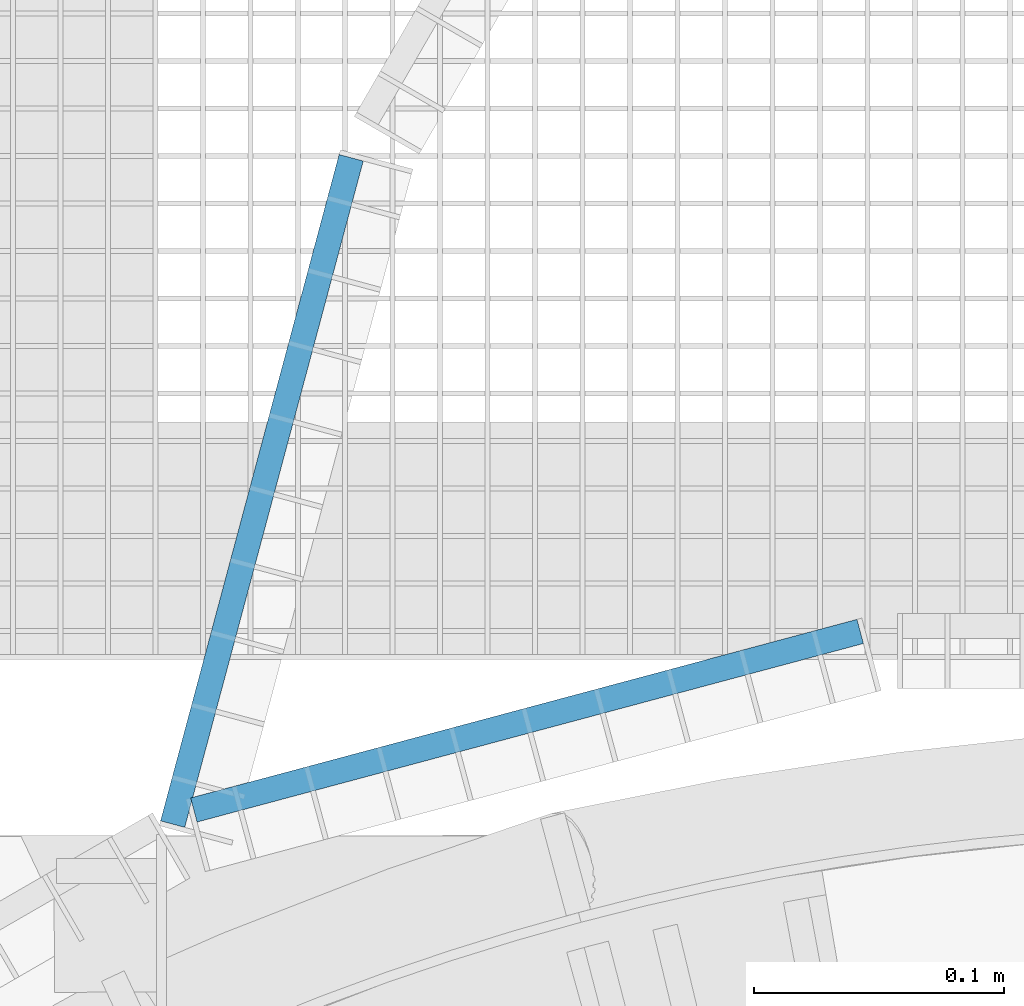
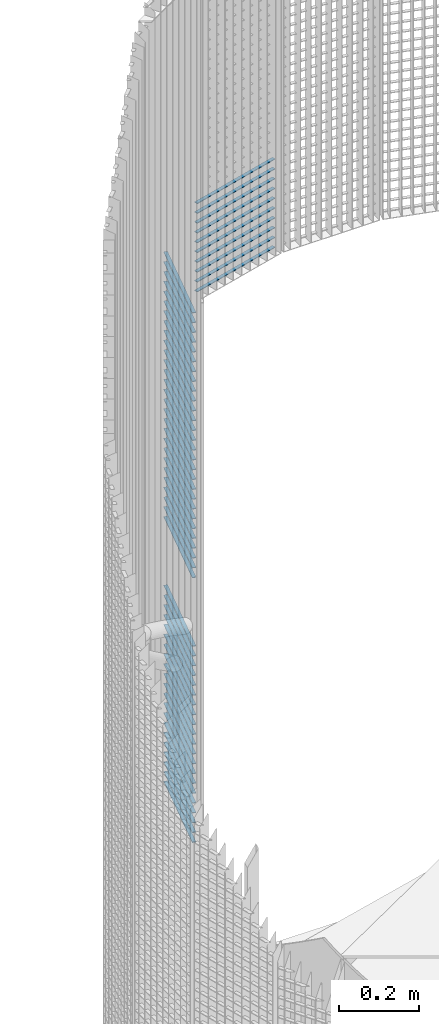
# One storey, part 327 of 1183: 59 beams, 1 element without a shape of its own.
"""IFC2X3 building model written with IfcOpenShell, lengths in millimetres."""

from ifc_helpers import new_model, si_unit, frame, origin_with_axes, origin_2d_with_axis, place, context, subcontext, project, spatial, rectangle, extrude, material, type_object, element, aggregate, save


model = new_model("IFC2X3")

# Units and contexts
model_context = context("Model", 3, precision=1e-05, world=origin_with_axes())
body_context = subcontext(model_context, "Body", "Model", "MODEL_VIEW")
ifc_project = project(units=[si_unit("LENGTHUNIT", "METRE", prefix="MILLI"), si_unit("AREAUNIT", "SQUARE_METRE"), si_unit("VOLUMEUNIT", "CUBIC_METRE"), si_unit("MASSUNIT", "GRAM", prefix="KILO"), si_unit("TIMEUNIT", "SECOND"), si_unit("PLANEANGLEUNIT", "RADIAN"), si_unit("SOLIDANGLEUNIT", "STERADIAN"), si_unit("THERMODYNAMICTEMPERATUREUNIT", "DEGREE_CELSIUS"), si_unit("LUMINOUSINTENSITYUNIT", "LUMEN")], contexts=[model_context])

# Site, building, storey
site_placement = place(None, origin_with_axes())
site = spatial("IfcSite", under=ifc_project, at=site_placement, Name="Undefined", CompositionType="ELEMENT")
building_placement = place(site_placement, origin_with_axes())
building = spatial("IfcBuilding", under=site, at=building_placement, Name="Undefined", CompositionType="ELEMENT")
storey_placement = place(building_placement, origin_with_axes())
storey = spatial("IfcBuildingStorey", under=building, at=storey_placement, Name="Undefined", CompositionType="ELEMENT", Elevation=0.0)

# Assembly, beams
assembly_placement = place(storey_placement, origin_with_axes())
assembly = element("IfcElementAssembly", 1, at=assembly_placement, inside=storey, Name="BORDURE", AssemblyPlace="NOTDEFINED", PredefinedType="NOTDEFINED")
ifc_material = material(Name="STEEL/S235JR")
beam_type = type_object("IfcBeamType", Name="PL2*10", PredefinedType="NOTDEFINED")
beam_1_placement = place(assembly_placement, frame((-154.895926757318, 1111.25508286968, 2280.0), z_axis=(-0.258819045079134, 0.965925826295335, 0.0), x_axis=(-0.965925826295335, -0.258819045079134, 0.0)))
beam_1 = element("IfcBeam", 2, at=beam_1_placement, type_object=beam_type, material=ifc_material, Name="ENTRETOISE", context=body_context, shape_type="SweptSolid", body=[
    extrude(rectangle(XDim=2.0, YDim=10.0, at=origin_2d_with_axis()), frame((275.999999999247, 9.09494701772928e-13, 1.53210777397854e-14), z_axis=(-1.0, 0.0, 0.0), x_axis=(0.0, -1.0, 0.0)), (0.0, 0.0, 1.0), 276.0),
])
beam_2_placement = place(assembly_placement, frame((-154.895926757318, 1111.25508286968, 2250.0), z_axis=(-0.258819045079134, 0.965925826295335, 0.0), x_axis=(-0.965925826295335, -0.258819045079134, 0.0)))
beam_2 = element("IfcBeam", 3, at=beam_2_placement, type_object=beam_type, material=ifc_material, Name="ENTRETOISE", context=body_context, shape_type="SweptSolid", body=[
    extrude(rectangle(XDim=2.0, YDim=10.0, at=origin_2d_with_axis()), frame((275.999999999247, 9.09494701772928e-13, 1.53210777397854e-14), z_axis=(-1.0, 0.0, 0.0), x_axis=(0.0, -1.0, 0.0)), (0.0, 0.0, 1.0), 276.0),
])
beam_3_placement = place(assembly_placement, frame((-154.895926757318, 1111.25508286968, 2220.0), z_axis=(-0.258819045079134, 0.965925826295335, 0.0), x_axis=(-0.965925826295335, -0.258819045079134, 0.0)))
beam_3 = element("IfcBeam", 4, at=beam_3_placement, type_object=beam_type, material=ifc_material, Name="ENTRETOISE", context=body_context, shape_type="SweptSolid", body=[
    extrude(rectangle(XDim=2.0, YDim=10.0, at=origin_2d_with_axis()), frame((275.999999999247, 9.09494701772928e-13, 1.53210777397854e-14), z_axis=(-1.0, 0.0, 0.0), x_axis=(0.0, -1.0, 0.0)), (0.0, 0.0, 1.0), 276.0),
])
beam_4_placement = place(assembly_placement, frame((-154.895926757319, 1111.25508286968, 2190.0), z_axis=(-0.258819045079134, 0.965925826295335, 0.0), x_axis=(-0.965925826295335, -0.258819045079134, 0.0)))
beam_4 = element("IfcBeam", 5, at=beam_4_placement, type_object=beam_type, material=ifc_material, Name="ENTRETOISE", context=body_context, shape_type="SweptSolid", body=[
    extrude(rectangle(XDim=2.0, YDim=10.0, at=origin_2d_with_axis()), frame((275.999999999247, 9.09494701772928e-13, 1.53210777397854e-14), z_axis=(-1.0, 0.0, 0.0), x_axis=(0.0, -1.0, 0.0)), (0.0, 0.0, 1.0), 276.0),
])
beam_5_placement = place(assembly_placement, frame((-154.895926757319, 1111.25508286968, 2160.0), z_axis=(-0.258819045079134, 0.965925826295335, 0.0), x_axis=(-0.965925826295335, -0.258819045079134, 0.0)))
beam_5 = element("IfcBeam", 6, at=beam_5_placement, type_object=beam_type, material=ifc_material, Name="ENTRETOISE", context=body_context, shape_type="SweptSolid", body=[
    extrude(rectangle(XDim=2.0, YDim=10.0, at=origin_2d_with_axis()), frame((275.999999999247, 9.09494701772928e-13, 1.53210777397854e-14), z_axis=(-1.0, 0.0, 0.0), x_axis=(0.0, -1.0, 0.0)), (0.0, 0.0, 1.0), 276.0),
])
beam_6_placement = place(assembly_placement, frame((-154.895926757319, 1111.25508286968, 2130.0), z_axis=(-0.258819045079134, 0.965925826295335, 0.0), x_axis=(-0.965925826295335, -0.258819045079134, 0.0)))
beam_6 = element("IfcBeam", 7, at=beam_6_placement, type_object=beam_type, material=ifc_material, Name="ENTRETOISE", context=body_context, shape_type="SweptSolid", body=[
    extrude(rectangle(XDim=2.0, YDim=10.0, at=origin_2d_with_axis()), frame((275.999999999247, 9.09494701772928e-13, 1.53210777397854e-14), z_axis=(-1.0, 0.0, 0.0), x_axis=(0.0, -1.0, 0.0)), (0.0, 0.0, 1.0), 276.0),
])
beam_7_placement = place(assembly_placement, frame((-154.895926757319, 1111.25508286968, 2100.0), z_axis=(-0.258819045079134, 0.965925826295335, 0.0), x_axis=(-0.965925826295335, -0.258819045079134, 0.0)))
beam_7 = element("IfcBeam", 8, at=beam_7_placement, type_object=beam_type, material=ifc_material, Name="ENTRETOISE", context=body_context, shape_type="SweptSolid", body=[
    extrude(rectangle(XDim=2.0, YDim=10.0, at=origin_2d_with_axis()), frame((275.999999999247, 9.09494701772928e-13, 1.53210777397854e-14), z_axis=(-1.0, 0.0, 0.0), x_axis=(0.0, -1.0, 0.0)), (0.0, 0.0, 1.0), 276.0),
])
beam_8_placement = place(assembly_placement, frame((-154.895926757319, 1111.25508286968, 2070.0), z_axis=(-0.258819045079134, 0.965925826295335, 0.0), x_axis=(-0.965925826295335, -0.258819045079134, 0.0)))
beam_8 = element("IfcBeam", 9, at=beam_8_placement, type_object=beam_type, material=ifc_material, Name="ENTRETOISE", context=body_context, shape_type="SweptSolid", body=[
    extrude(rectangle(XDim=2.0, YDim=10.0, at=origin_2d_with_axis()), frame((275.999999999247, 9.09494701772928e-13, 1.53210777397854e-14), z_axis=(-1.0, 0.0, 0.0), x_axis=(0.0, -1.0, 0.0)), (0.0, 0.0, 1.0), 276.0),
])
beam_9_placement = place(assembly_placement, frame((-154.895926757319, 1111.25508286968, 2040.0), z_axis=(-0.258819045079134, 0.965925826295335, 0.0), x_axis=(-0.965925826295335, -0.258819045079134, 0.0)))
beam_9 = element("IfcBeam", 10, at=beam_9_placement, type_object=beam_type, material=ifc_material, Name="ENTRETOISE", context=body_context, shape_type="SweptSolid", body=[
    extrude(rectangle(XDim=2.0, YDim=10.0, at=origin_2d_with_axis()), frame((275.999999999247, 9.09494701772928e-13, 1.53210777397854e-14), z_axis=(-1.0, 0.0, 0.0), x_axis=(0.0, -1.0, 0.0)), (0.0, 0.0, 1.0), 276.0),
])
beam_10_placement = place(assembly_placement, frame((-154.895926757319, 1111.25508286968, 2010.0), z_axis=(-0.258819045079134, 0.965925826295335, 0.0), x_axis=(-0.965925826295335, -0.258819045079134, 0.0)))
beam_10 = element("IfcBeam", 11, at=beam_10_placement, type_object=beam_type, material=ifc_material, Name="ENTRETOISE", context=body_context, shape_type="SweptSolid", body=[
    extrude(rectangle(XDim=2.0, YDim=10.0, at=origin_2d_with_axis()), frame((275.999999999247, 9.09494701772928e-13, 1.53210777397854e-14), z_axis=(-1.0, 0.0, 0.0), x_axis=(0.0, -1.0, 0.0)), (0.0, 0.0, 1.0), 276.0),
])
beam_11_placement = place(assembly_placement, frame((-358.548698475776, 1300.76186484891, 1950.0), z_axis=(-0.965925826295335, 0.258819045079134, 0.0), x_axis=(-0.258819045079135, -0.965925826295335, 0.0)))
beam_11 = element("IfcBeam", 12, at=beam_11_placement, type_object=beam_type, material=ifc_material, Name="ENTRETOISE", context=body_context, shape_type="SweptSolid", body=[
    extrude(rectangle(XDim=2.0, YDim=10.0, at=origin_2d_with_axis()), frame((275.999999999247, 9.09494701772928e-13, 1.53210777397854e-14), z_axis=(-1.0, 0.0, 0.0), x_axis=(0.0, -1.0, 0.0)), (0.0, 0.0, 1.0), 276.0),
])
beam_12_placement = place(assembly_placement, frame((-358.548698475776, 1300.76186484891, 1920.0), z_axis=(-0.965925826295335, 0.258819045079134, 0.0), x_axis=(-0.258819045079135, -0.965925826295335, 0.0)))
beam_12 = element("IfcBeam", 13, at=beam_12_placement, type_object=beam_type, material=ifc_material, Name="ENTRETOISE", context=body_context, shape_type="SweptSolid", body=[
    extrude(rectangle(XDim=2.0, YDim=10.0, at=origin_2d_with_axis()), frame((275.999999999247, 9.09494701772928e-13, 1.53210777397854e-14), z_axis=(-1.0, 0.0, 0.0), x_axis=(0.0, -1.0, 0.0)), (0.0, 0.0, 1.0), 276.0),
])
beam_13_placement = place(assembly_placement, frame((-358.548698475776, 1300.76186484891, 1890.0), z_axis=(-0.965925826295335, 0.258819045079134, 0.0), x_axis=(-0.258819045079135, -0.965925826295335, 0.0)))
beam_13 = element("IfcBeam", 14, at=beam_13_placement, type_object=beam_type, material=ifc_material, Name="ENTRETOISE", context=body_context, shape_type="SweptSolid", body=[
    extrude(rectangle(XDim=2.0, YDim=10.0, at=origin_2d_with_axis()), frame((275.999999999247, 9.09494701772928e-13, 1.53210777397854e-14), z_axis=(-1.0, 0.0, 0.0), x_axis=(0.0, -1.0, 0.0)), (0.0, 0.0, 1.0), 276.0),
])
beam_14_placement = place(assembly_placement, frame((-358.548698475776, 1300.76186484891, 1860.0), z_axis=(-0.965925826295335, 0.258819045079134, 0.0), x_axis=(-0.258819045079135, -0.965925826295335, 0.0)))
beam_14 = element("IfcBeam", 15, at=beam_14_placement, type_object=beam_type, material=ifc_material, Name="ENTRETOISE", context=body_context, shape_type="SweptSolid", body=[
    extrude(rectangle(XDim=2.0, YDim=10.0, at=origin_2d_with_axis()), frame((275.999999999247, 9.09494701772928e-13, 1.53210777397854e-14), z_axis=(-1.0, 0.0, 0.0), x_axis=(0.0, -1.0, 0.0)), (0.0, 0.0, 1.0), 276.0),
])
beam_15_placement = place(assembly_placement, frame((-358.548698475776, 1300.76186484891, 1830.0), z_axis=(-0.965925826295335, 0.258819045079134, 0.0), x_axis=(-0.258819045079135, -0.965925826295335, 0.0)))
beam_15 = element("IfcBeam", 16, at=beam_15_placement, type_object=beam_type, material=ifc_material, Name="ENTRETOISE", context=body_context, shape_type="SweptSolid", body=[
    extrude(rectangle(XDim=2.0, YDim=10.0, at=origin_2d_with_axis()), frame((275.999999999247, 9.09494701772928e-13, 1.53210777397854e-14), z_axis=(-1.0, 0.0, 0.0), x_axis=(0.0, -1.0, 0.0)), (0.0, 0.0, 1.0), 276.0),
])
beam_16_placement = place(assembly_placement, frame((-358.548698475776, 1300.76186484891, 1800.0), z_axis=(-0.965925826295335, 0.258819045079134, 0.0), x_axis=(-0.258819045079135, -0.965925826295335, 0.0)))
beam_16 = element("IfcBeam", 17, at=beam_16_placement, type_object=beam_type, material=ifc_material, Name="ENTRETOISE", context=body_context, shape_type="SweptSolid", body=[
    extrude(rectangle(XDim=2.0, YDim=10.0, at=origin_2d_with_axis()), frame((275.999999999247, 9.09494701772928e-13, 1.53210777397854e-14), z_axis=(-1.0, 0.0, 0.0), x_axis=(0.0, -1.0, 0.0)), (0.0, 0.0, 1.0), 276.0),
])
beam_17_placement = place(assembly_placement, frame((-358.548698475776, 1300.76186484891, 1770.0), z_axis=(-0.965925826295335, 0.258819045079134, 0.0), x_axis=(-0.258819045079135, -0.965925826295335, 0.0)))
beam_17 = element("IfcBeam", 18, at=beam_17_placement, type_object=beam_type, material=ifc_material, Name="ENTRETOISE", context=body_context, shape_type="SweptSolid", body=[
    extrude(rectangle(XDim=2.0, YDim=10.0, at=origin_2d_with_axis()), frame((275.999999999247, 9.09494701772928e-13, 1.53210777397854e-14), z_axis=(-1.0, 0.0, 0.0), x_axis=(0.0, -1.0, 0.0)), (0.0, 0.0, 1.0), 276.0),
])
beam_18_placement = place(assembly_placement, frame((-358.548698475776, 1300.76186484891, 1740.0), z_axis=(-0.965925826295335, 0.258819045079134, 0.0), x_axis=(-0.258819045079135, -0.965925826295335, 0.0)))
beam_18 = element("IfcBeam", 19, at=beam_18_placement, type_object=beam_type, material=ifc_material, Name="ENTRETOISE", context=body_context, shape_type="SweptSolid", body=[
    extrude(rectangle(XDim=2.0, YDim=10.0, at=origin_2d_with_axis()), frame((275.999999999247, 9.09494701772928e-13, 1.53210777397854e-14), z_axis=(-1.0, 0.0, 0.0), x_axis=(0.0, -1.0, 0.0)), (0.0, 0.0, 1.0), 276.0),
])
beam_19_placement = place(assembly_placement, frame((-358.548698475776, 1300.76186484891, 1710.0), z_axis=(-0.965925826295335, 0.258819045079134, 0.0), x_axis=(-0.258819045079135, -0.965925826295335, 0.0)))
beam_19 = element("IfcBeam", 20, at=beam_19_placement, type_object=beam_type, material=ifc_material, Name="ENTRETOISE", context=body_context, shape_type="SweptSolid", body=[
    extrude(rectangle(XDim=2.0, YDim=10.0, at=origin_2d_with_axis()), frame((275.999999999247, 9.09494701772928e-13, 1.53210777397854e-14), z_axis=(-1.0, 0.0, 0.0), x_axis=(0.0, -1.0, 0.0)), (0.0, 0.0, 1.0), 276.0),
])
beam_20_placement = place(assembly_placement, frame((-358.548698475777, 1300.76186484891, 1680.0), z_axis=(-0.965925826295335, 0.258819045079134, 0.0), x_axis=(-0.258819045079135, -0.965925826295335, 0.0)))
beam_20 = element("IfcBeam", 21, at=beam_20_placement, type_object=beam_type, material=ifc_material, Name="ENTRETOISE", context=body_context, shape_type="SweptSolid", body=[
    extrude(rectangle(XDim=2.0, YDim=10.0, at=origin_2d_with_axis()), frame((275.999999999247, 9.09494701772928e-13, 1.53210777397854e-14), z_axis=(-1.0, 0.0, 0.0), x_axis=(0.0, -1.0, 0.0)), (0.0, 0.0, 1.0), 276.0),
])
beam_21_placement = place(assembly_placement, frame((-358.548698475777, 1300.76186484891, 1650.0), z_axis=(-0.965925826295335, 0.258819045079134, 0.0), x_axis=(-0.258819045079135, -0.965925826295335, 0.0)))
beam_21 = element("IfcBeam", 22, at=beam_21_placement, type_object=beam_type, material=ifc_material, Name="ENTRETOISE", context=body_context, shape_type="SweptSolid", body=[
    extrude(rectangle(XDim=2.0, YDim=10.0, at=origin_2d_with_axis()), frame((275.999999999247, 9.09494701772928e-13, 1.53210777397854e-14), z_axis=(-1.0, 0.0, 0.0), x_axis=(0.0, -1.0, 0.0)), (0.0, 0.0, 1.0), 276.0),
])
beam_22_placement = place(assembly_placement, frame((-358.548698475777, 1300.76186484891, 1620.0), z_axis=(-0.965925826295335, 0.258819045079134, 0.0), x_axis=(-0.258819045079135, -0.965925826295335, 0.0)))
beam_22 = element("IfcBeam", 23, at=beam_22_placement, type_object=beam_type, material=ifc_material, Name="ENTRETOISE", context=body_context, shape_type="SweptSolid", body=[
    extrude(rectangle(XDim=2.0, YDim=10.0, at=origin_2d_with_axis()), frame((275.999999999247, 9.09494701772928e-13, 1.53210777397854e-14), z_axis=(-1.0, 0.0, 0.0), x_axis=(0.0, -1.0, 0.0)), (0.0, 0.0, 1.0), 276.0),
])
beam_23_placement = place(assembly_placement, frame((-358.548698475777, 1300.76186484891, 1590.0), z_axis=(-0.965925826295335, 0.258819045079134, 0.0), x_axis=(-0.258819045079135, -0.965925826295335, 0.0)))
beam_23 = element("IfcBeam", 24, at=beam_23_placement, type_object=beam_type, material=ifc_material, Name="ENTRETOISE", context=body_context, shape_type="SweptSolid", body=[
    extrude(rectangle(XDim=2.0, YDim=10.0, at=origin_2d_with_axis()), frame((275.999999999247, 9.09494701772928e-13, 1.53210777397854e-14), z_axis=(-1.0, 0.0, 0.0), x_axis=(0.0, -1.0, 0.0)), (0.0, 0.0, 1.0), 276.0),
])
beam_24_placement = place(assembly_placement, frame((-358.548698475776, 1300.76186484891, 1560.0), z_axis=(-0.965925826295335, 0.258819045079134, 0.0), x_axis=(-0.258819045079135, -0.965925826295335, 0.0)))
beam_24 = element("IfcBeam", 25, at=beam_24_placement, type_object=beam_type, material=ifc_material, Name="ENTRETOISE", context=body_context, shape_type="SweptSolid", body=[
    extrude(rectangle(XDim=2.0, YDim=10.0, at=origin_2d_with_axis()), frame((275.999999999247, 9.09494701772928e-13, 1.53210777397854e-14), z_axis=(-1.0, 0.0, 0.0), x_axis=(0.0, -1.0, 0.0)), (0.0, 0.0, 1.0), 276.0),
])
beam_25_placement = place(assembly_placement, frame((-358.548698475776, 1300.76186484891, 1530.0), z_axis=(-0.965925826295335, 0.258819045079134, 0.0), x_axis=(-0.258819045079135, -0.965925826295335, 0.0)))
beam_25 = element("IfcBeam", 26, at=beam_25_placement, type_object=beam_type, material=ifc_material, Name="ENTRETOISE", context=body_context, shape_type="SweptSolid", body=[
    extrude(rectangle(XDim=2.0, YDim=10.0, at=origin_2d_with_axis()), frame((275.999999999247, 9.09494701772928e-13, 1.53210777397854e-14), z_axis=(-1.0, 0.0, 0.0), x_axis=(0.0, -1.0, 0.0)), (0.0, 0.0, 1.0), 276.0),
])
beam_26_placement = place(assembly_placement, frame((-358.548698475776, 1300.76186484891, 1500.0), z_axis=(-0.965925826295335, 0.258819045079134, 0.0), x_axis=(-0.258819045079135, -0.965925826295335, 0.0)))
beam_26 = element("IfcBeam", 27, at=beam_26_placement, type_object=beam_type, material=ifc_material, Name="ENTRETOISE", context=body_context, shape_type="SweptSolid", body=[
    extrude(rectangle(XDim=2.0, YDim=10.0, at=origin_2d_with_axis()), frame((275.999999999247, 9.09494701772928e-13, 1.53210777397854e-14), z_axis=(-1.0, 0.0, 0.0), x_axis=(0.0, -1.0, 0.0)), (0.0, 0.0, 1.0), 276.0),
])
beam_27_placement = place(assembly_placement, frame((-358.548698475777, 1300.76186484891, 1470.0), z_axis=(-0.965925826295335, 0.258819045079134, 0.0), x_axis=(-0.258819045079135, -0.965925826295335, 0.0)))
beam_27 = element("IfcBeam", 28, at=beam_27_placement, type_object=beam_type, material=ifc_material, Name="ENTRETOISE", context=body_context, shape_type="SweptSolid", body=[
    extrude(rectangle(XDim=2.0, YDim=10.0, at=origin_2d_with_axis()), frame((275.999999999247, 9.09494701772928e-13, 1.53210777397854e-14), z_axis=(-1.0, 0.0, 0.0), x_axis=(0.0, -1.0, 0.0)), (0.0, 0.0, 1.0), 276.0),
])
beam_28_placement = place(assembly_placement, frame((-358.548698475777, 1300.76186484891, 1440.0), z_axis=(-0.965925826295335, 0.258819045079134, 0.0), x_axis=(-0.258819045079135, -0.965925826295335, 0.0)))
beam_28 = element("IfcBeam", 29, at=beam_28_placement, type_object=beam_type, material=ifc_material, Name="ENTRETOISE", context=body_context, shape_type="SweptSolid", body=[
    extrude(rectangle(XDim=2.0, YDim=10.0, at=origin_2d_with_axis()), frame((275.999999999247, 9.09494701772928e-13, 1.53210777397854e-14), z_axis=(-1.0, 0.0, 0.0), x_axis=(0.0, -1.0, 0.0)), (0.0, 0.0, 1.0), 276.0),
])
beam_29_placement = place(assembly_placement, frame((-358.548698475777, 1300.76186484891, 1410.0), z_axis=(-0.965925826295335, 0.258819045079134, 0.0), x_axis=(-0.258819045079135, -0.965925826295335, 0.0)))
beam_29 = element("IfcBeam", 30, at=beam_29_placement, type_object=beam_type, material=ifc_material, Name="ENTRETOISE", context=body_context, shape_type="SweptSolid", body=[
    extrude(rectangle(XDim=2.0, YDim=10.0, at=origin_2d_with_axis()), frame((275.999999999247, 9.09494701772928e-13, 1.53210777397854e-14), z_axis=(-1.0, 0.0, 0.0), x_axis=(0.0, -1.0, 0.0)), (0.0, 0.0, 1.0), 276.0),
])
beam_30_placement = place(assembly_placement, frame((-358.548698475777, 1300.76186484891, 1380.0), z_axis=(-0.965925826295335, 0.258819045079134, 0.0), x_axis=(-0.258819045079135, -0.965925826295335, 0.0)))
beam_30 = element("IfcBeam", 31, at=beam_30_placement, type_object=beam_type, material=ifc_material, Name="ENTRETOISE", context=body_context, shape_type="SweptSolid", body=[
    extrude(rectangle(XDim=2.0, YDim=10.0, at=origin_2d_with_axis()), frame((275.999999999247, 9.09494701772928e-13, 1.53210777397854e-14), z_axis=(-1.0, 0.0, 0.0), x_axis=(0.0, -1.0, 0.0)), (0.0, 0.0, 1.0), 276.0),
])
beam_31_placement = place(assembly_placement, frame((-358.548698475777, 1300.76186484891, 1350.0), z_axis=(-0.965925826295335, 0.258819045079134, 0.0), x_axis=(-0.258819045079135, -0.965925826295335, 0.0)))
beam_31 = element("IfcBeam", 32, at=beam_31_placement, type_object=beam_type, material=ifc_material, Name="ENTRETOISE", context=body_context, shape_type="SweptSolid", body=[
    extrude(rectangle(XDim=2.0, YDim=10.0, at=origin_2d_with_axis()), frame((275.999999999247, 9.09494701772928e-13, 1.53210777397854e-14), z_axis=(-1.0, 0.0, 0.0), x_axis=(0.0, -1.0, 0.0)), (0.0, 0.0, 1.0), 276.0),
])
beam_32_placement = place(assembly_placement, frame((-358.548698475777, 1300.76186484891, 1320.0), z_axis=(-0.965925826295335, 0.258819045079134, 0.0), x_axis=(-0.258819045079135, -0.965925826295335, 0.0)))
beam_32 = element("IfcBeam", 33, at=beam_32_placement, type_object=beam_type, material=ifc_material, Name="ENTRETOISE", context=body_context, shape_type="SweptSolid", body=[
    extrude(rectangle(XDim=2.0, YDim=10.0, at=origin_2d_with_axis()), frame((275.999999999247, 9.09494701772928e-13, 1.53210777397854e-14), z_axis=(-1.0, 0.0, 0.0), x_axis=(0.0, -1.0, 0.0)), (0.0, 0.0, 1.0), 276.0),
])
beam_33_placement = place(assembly_placement, frame((-358.548698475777, 1300.76186484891, 1290.0), z_axis=(-0.965925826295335, 0.258819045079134, 0.0), x_axis=(-0.258819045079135, -0.965925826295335, 0.0)))
beam_33 = element("IfcBeam", 34, at=beam_33_placement, type_object=beam_type, material=ifc_material, Name="ENTRETOISE", context=body_context, shape_type="SweptSolid", body=[
    extrude(rectangle(XDim=2.0, YDim=10.0, at=origin_2d_with_axis()), frame((275.999999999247, 9.09494701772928e-13, 1.53210777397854e-14), z_axis=(-1.0, 0.0, 0.0), x_axis=(0.0, -1.0, 0.0)), (0.0, 0.0, 1.0), 276.0),
])
beam_34_placement = place(assembly_placement, frame((-358.548698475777, 1300.76186484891, 1260.0), z_axis=(-0.965925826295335, 0.258819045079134, 0.0), x_axis=(-0.258819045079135, -0.965925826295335, 0.0)))
beam_34 = element("IfcBeam", 35, at=beam_34_placement, type_object=beam_type, material=ifc_material, Name="ENTRETOISE", context=body_context, shape_type="SweptSolid", body=[
    extrude(rectangle(XDim=2.0, YDim=10.0, at=origin_2d_with_axis()), frame((275.999999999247, 9.09494701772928e-13, 1.53210777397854e-14), z_axis=(-1.0, 0.0, 0.0), x_axis=(0.0, -1.0, 0.0)), (0.0, 0.0, 1.0), 276.0),
])
beam_35_placement = place(assembly_placement, frame((-358.548698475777, 1300.76186484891, 1230.0), z_axis=(-0.965925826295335, 0.258819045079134, 0.0), x_axis=(-0.258819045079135, -0.965925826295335, 0.0)))
beam_35 = element("IfcBeam", 36, at=beam_35_placement, type_object=beam_type, material=ifc_material, Name="ENTRETOISE", context=body_context, shape_type="SweptSolid", body=[
    extrude(rectangle(XDim=2.0, YDim=10.0, at=origin_2d_with_axis()), frame((275.999999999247, 9.09494701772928e-13, 1.53210777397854e-14), z_axis=(-1.0, 0.0, 0.0), x_axis=(0.0, -1.0, 0.0)), (0.0, 0.0, 1.0), 276.0),
])
beam_36_placement = place(assembly_placement, frame((-358.548698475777, 1300.76186484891, 1200.0), z_axis=(-0.965925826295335, 0.258819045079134, 0.0), x_axis=(-0.258819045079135, -0.965925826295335, 0.0)))
beam_36 = element("IfcBeam", 37, at=beam_36_placement, type_object=beam_type, material=ifc_material, Name="ENTRETOISE", context=body_context, shape_type="SweptSolid", body=[
    extrude(rectangle(XDim=2.0, YDim=10.0, at=origin_2d_with_axis()), frame((275.999999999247, 9.09494701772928e-13, 1.53210777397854e-14), z_axis=(-1.0, 0.0, 0.0), x_axis=(0.0, -1.0, 0.0)), (0.0, 0.0, 1.0), 276.0),
])
beam_37_placement = place(assembly_placement, frame((-358.548698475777, 1300.76186484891, 1170.0), z_axis=(-0.965925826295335, 0.258819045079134, 0.0), x_axis=(-0.258819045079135, -0.965925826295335, 0.0)))
beam_37 = element("IfcBeam", 38, at=beam_37_placement, type_object=beam_type, material=ifc_material, Name="ENTRETOISE", context=body_context, shape_type="SweptSolid", body=[
    extrude(rectangle(XDim=2.0, YDim=10.0, at=origin_2d_with_axis()), frame((275.999999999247, 9.09494701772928e-13, 1.53210777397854e-14), z_axis=(-1.0, 0.0, 0.0), x_axis=(0.0, -1.0, 0.0)), (0.0, 0.0, 1.0), 276.0),
])
beam_38_placement = place(assembly_placement, frame((-358.548698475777, 1300.76186484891, 1140.0), z_axis=(-0.965925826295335, 0.258819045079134, 0.0), x_axis=(-0.258819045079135, -0.965925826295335, 0.0)))
beam_38 = element("IfcBeam", 39, at=beam_38_placement, type_object=beam_type, material=ifc_material, Name="ENTRETOISE", context=body_context, shape_type="SweptSolid", body=[
    extrude(rectangle(XDim=2.0, YDim=10.0, at=origin_2d_with_axis()), frame((275.999999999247, 9.09494701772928e-13, 1.53210777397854e-14), z_axis=(-1.0, 0.0, 0.0), x_axis=(0.0, -1.0, 0.0)), (0.0, 0.0, 1.0), 276.0),
])
beam_39_placement = place(assembly_placement, frame((-358.548698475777, 1300.76186484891, 719.999999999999), z_axis=(-0.965925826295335, 0.258819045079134, 0.0), x_axis=(-0.258819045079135, -0.965925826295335, 0.0)))
beam_39 = element("IfcBeam", 40, at=beam_39_placement, type_object=beam_type, material=ifc_material, Name="ENTRETOISE", context=body_context, shape_type="SweptSolid", body=[
    extrude(rectangle(XDim=2.0, YDim=10.0, at=origin_2d_with_axis()), frame((275.999999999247, 9.09494701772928e-13, 1.53210777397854e-14), z_axis=(-1.0, 0.0, 0.0), x_axis=(0.0, -1.0, 0.0)), (0.0, 0.0, 1.0), 276.0),
])
beam_40_placement = place(assembly_placement, frame((-358.548698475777, 1300.76186484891, 689.999999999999), z_axis=(-0.965925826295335, 0.258819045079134, 0.0), x_axis=(-0.258819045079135, -0.965925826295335, 0.0)))
beam_40 = element("IfcBeam", 41, at=beam_40_placement, type_object=beam_type, material=ifc_material, Name="ENTRETOISE", context=body_context, shape_type="SweptSolid", body=[
    extrude(rectangle(XDim=2.0, YDim=10.0, at=origin_2d_with_axis()), frame((275.999999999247, 9.09494701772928e-13, 1.53210777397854e-14), z_axis=(-1.0, 0.0, 0.0), x_axis=(0.0, -1.0, 0.0)), (0.0, 0.0, 1.0), 276.0),
])
beam_41_placement = place(assembly_placement, frame((-358.548698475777, 1300.76186484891, 749.999999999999), z_axis=(-0.965925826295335, 0.258819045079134, 0.0), x_axis=(-0.258819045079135, -0.965925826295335, 0.0)))
beam_41 = element("IfcBeam", 42, at=beam_41_placement, type_object=beam_type, material=ifc_material, Name="ENTRETOISE", context=body_context, shape_type="SweptSolid", body=[
    extrude(rectangle(XDim=2.0, YDim=10.0, at=origin_2d_with_axis()), frame((275.999999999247, 9.09494701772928e-13, 1.53210777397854e-14), z_axis=(-1.0, 0.0, 0.0), x_axis=(0.0, -1.0, 0.0)), (0.0, 0.0, 1.0), 276.0),
])
beam_42_placement = place(assembly_placement, frame((-358.548698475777, 1300.76186484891, 659.999999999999), z_axis=(-0.965925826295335, 0.258819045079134, 0.0), x_axis=(-0.258819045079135, -0.965925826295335, 0.0)))
beam_42 = element("IfcBeam", 43, at=beam_42_placement, type_object=beam_type, material=ifc_material, Name="ENTRETOISE", context=body_context, shape_type="SweptSolid", body=[
    extrude(rectangle(XDim=2.0, YDim=10.0, at=origin_2d_with_axis()), frame((275.999999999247, 9.09494701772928e-13, 1.53210777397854e-14), z_axis=(-1.0, 0.0, 0.0), x_axis=(0.0, -1.0, 0.0)), (0.0, 0.0, 1.0), 276.0),
])
beam_43_placement = place(assembly_placement, frame((-358.548698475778, 1300.76186484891, 629.999999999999), z_axis=(-0.965925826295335, 0.258819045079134, 0.0), x_axis=(-0.258819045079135, -0.965925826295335, 0.0)))
beam_43 = element("IfcBeam", 44, at=beam_43_placement, type_object=beam_type, material=ifc_material, Name="ENTRETOISE", context=body_context, shape_type="SweptSolid", body=[
    extrude(rectangle(XDim=2.0, YDim=10.0, at=origin_2d_with_axis()), frame((275.999999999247, 9.09494701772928e-13, 1.53210777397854e-14), z_axis=(-1.0, 0.0, 0.0), x_axis=(0.0, -1.0, 0.0)), (0.0, 0.0, 1.0), 276.0),
])
beam_44_placement = place(assembly_placement, frame((-358.548698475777, 1300.76186484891, 779.999999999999), z_axis=(-0.965925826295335, 0.258819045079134, 0.0), x_axis=(-0.258819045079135, -0.965925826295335, 0.0)))
beam_44 = element("IfcBeam", 45, at=beam_44_placement, type_object=beam_type, material=ifc_material, Name="ENTRETOISE", context=body_context, shape_type="SweptSolid", body=[
    extrude(rectangle(XDim=2.0, YDim=10.0, at=origin_2d_with_axis()), frame((275.999999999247, 9.09494701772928e-13, 1.53210777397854e-14), z_axis=(-1.0, 0.0, 0.0), x_axis=(0.0, -1.0, 0.0)), (0.0, 0.0, 1.0), 276.0),
])
beam_45_placement = place(assembly_placement, frame((-358.548698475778, 1300.76186484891, 599.999999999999), z_axis=(-0.965925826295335, 0.258819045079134, 0.0), x_axis=(-0.258819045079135, -0.965925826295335, 0.0)))
beam_45 = element("IfcBeam", 46, at=beam_45_placement, type_object=beam_type, material=ifc_material, Name="ENTRETOISE", context=body_context, shape_type="SweptSolid", body=[
    extrude(rectangle(XDim=2.0, YDim=10.0, at=origin_2d_with_axis()), frame((275.999999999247, 9.09494701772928e-13, 1.53210777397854e-14), z_axis=(-1.0, 0.0, 0.0), x_axis=(0.0, -1.0, 0.0)), (0.0, 0.0, 1.0), 276.0),
])
beam_46_placement = place(assembly_placement, frame((-358.548698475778, 1300.76186484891, 809.999999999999), z_axis=(-0.965925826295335, 0.258819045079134, 0.0), x_axis=(-0.258819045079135, -0.965925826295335, 0.0)))
beam_46 = element("IfcBeam", 47, at=beam_46_placement, type_object=beam_type, material=ifc_material, Name="ENTRETOISE", context=body_context, shape_type="SweptSolid", body=[
    extrude(rectangle(XDim=2.0, YDim=10.0, at=origin_2d_with_axis()), frame((275.999999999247, 9.09494701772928e-13, 1.53210777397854e-14), z_axis=(-1.0, 0.0, 0.0), x_axis=(0.0, -1.0, 0.0)), (0.0, 0.0, 1.0), 276.0),
])
beam_47_placement = place(assembly_placement, frame((-358.548698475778, 1300.76186484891, 569.999999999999), z_axis=(-0.965925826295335, 0.258819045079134, 0.0), x_axis=(-0.258819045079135, -0.965925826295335, 0.0)))
beam_47 = element("IfcBeam", 48, at=beam_47_placement, type_object=beam_type, material=ifc_material, Name="ENTRETOISE", context=body_context, shape_type="SweptSolid", body=[
    extrude(rectangle(XDim=2.0, YDim=10.0, at=origin_2d_with_axis()), frame((275.999999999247, 9.09494701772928e-13, 1.53210777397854e-14), z_axis=(-1.0, 0.0, 0.0), x_axis=(0.0, -1.0, 0.0)), (0.0, 0.0, 1.0), 276.0),
])
beam_48_placement = place(assembly_placement, frame((-358.548698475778, 1300.76186484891, 539.999999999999), z_axis=(-0.965925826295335, 0.258819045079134, 0.0), x_axis=(-0.258819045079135, -0.965925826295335, 0.0)))
beam_48 = element("IfcBeam", 49, at=beam_48_placement, type_object=beam_type, material=ifc_material, Name="ENTRETOISE", context=body_context, shape_type="SweptSolid", body=[
    extrude(rectangle(XDim=2.0, YDim=10.0, at=origin_2d_with_axis()), frame((275.999999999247, 9.09494701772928e-13, 1.53210777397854e-14), z_axis=(-1.0, 0.0, 0.0), x_axis=(0.0, -1.0, 0.0)), (0.0, 0.0, 1.0), 276.0),
])
beam_49_placement = place(assembly_placement, frame((-358.548698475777, 1300.76186484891, 839.999999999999), z_axis=(-0.965925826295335, 0.258819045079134, 0.0), x_axis=(-0.258819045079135, -0.965925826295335, 0.0)))
beam_49 = element("IfcBeam", 50, at=beam_49_placement, type_object=beam_type, material=ifc_material, Name="ENTRETOISE", context=body_context, shape_type="SweptSolid", body=[
    extrude(rectangle(XDim=2.0, YDim=10.0, at=origin_2d_with_axis()), frame((275.999999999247, 9.09494701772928e-13, 1.53210777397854e-14), z_axis=(-1.0, 0.0, 0.0), x_axis=(0.0, -1.0, 0.0)), (0.0, 0.0, 1.0), 276.0),
])
beam_50_placement = place(assembly_placement, frame((-358.548698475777, 1300.76186484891, 509.999999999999), z_axis=(-0.965925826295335, 0.258819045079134, 0.0), x_axis=(-0.258819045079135, -0.965925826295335, 0.0)))
beam_50 = element("IfcBeam", 51, at=beam_50_placement, type_object=beam_type, material=ifc_material, Name="ENTRETOISE", context=body_context, shape_type="SweptSolid", body=[
    extrude(rectangle(XDim=2.0, YDim=10.0, at=origin_2d_with_axis()), frame((275.999999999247, 9.09494701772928e-13, 1.53210777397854e-14), z_axis=(-1.0, 0.0, 0.0), x_axis=(0.0, -1.0, 0.0)), (0.0, 0.0, 1.0), 276.0),
])
beam_51_placement = place(assembly_placement, frame((-358.548698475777, 1300.76186484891, 479.999999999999), z_axis=(-0.965925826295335, 0.258819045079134, 0.0), x_axis=(-0.258819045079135, -0.965925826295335, 0.0)))
beam_51 = element("IfcBeam", 52, at=beam_51_placement, type_object=beam_type, material=ifc_material, Name="ENTRETOISE", context=body_context, shape_type="SweptSolid", body=[
    extrude(rectangle(XDim=2.0, YDim=10.0, at=origin_2d_with_axis()), frame((275.999999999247, 9.09494701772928e-13, 1.53210777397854e-14), z_axis=(-1.0, 0.0, 0.0), x_axis=(0.0, -1.0, 0.0)), (0.0, 0.0, 1.0), 276.0),
])
beam_52_placement = place(assembly_placement, frame((-358.548698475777, 1300.76186484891, 869.999999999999), z_axis=(-0.965925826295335, 0.258819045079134, 0.0), x_axis=(-0.258819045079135, -0.965925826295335, 0.0)))
beam_52 = element("IfcBeam", 53, at=beam_52_placement, type_object=beam_type, material=ifc_material, Name="ENTRETOISE", context=body_context, shape_type="SweptSolid", body=[
    extrude(rectangle(XDim=2.0, YDim=10.0, at=origin_2d_with_axis()), frame((275.999999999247, 9.09494701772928e-13, 1.53210777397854e-14), z_axis=(-1.0, 0.0, 0.0), x_axis=(0.0, -1.0, 0.0)), (0.0, 0.0, 1.0), 276.0),
])
beam_53_placement = place(assembly_placement, frame((-358.548698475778, 1300.76186484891, 449.999999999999), z_axis=(-0.965925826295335, 0.258819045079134, 0.0), x_axis=(-0.258819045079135, -0.965925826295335, 0.0)))
beam_53 = element("IfcBeam", 54, at=beam_53_placement, type_object=beam_type, material=ifc_material, Name="ENTRETOISE", context=body_context, shape_type="SweptSolid", body=[
    extrude(rectangle(XDim=2.0, YDim=10.0, at=origin_2d_with_axis()), frame((275.999999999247, 9.09494701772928e-13, 1.53210777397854e-14), z_axis=(-1.0, 0.0, 0.0), x_axis=(0.0, -1.0, 0.0)), (0.0, 0.0, 1.0), 276.0),
])
beam_54_placement = place(assembly_placement, frame((-358.548698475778, 1300.76186484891, 419.999999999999), z_axis=(-0.965925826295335, 0.258819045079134, 0.0), x_axis=(-0.258819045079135, -0.965925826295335, 0.0)))
beam_54 = element("IfcBeam", 55, at=beam_54_placement, type_object=beam_type, material=ifc_material, Name="ENTRETOISE", context=body_context, shape_type="SweptSolid", body=[
    extrude(rectangle(XDim=2.0, YDim=10.0, at=origin_2d_with_axis()), frame((275.999999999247, 9.09494701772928e-13, 1.53210777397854e-14), z_axis=(-1.0, 0.0, 0.0), x_axis=(0.0, -1.0, 0.0)), (0.0, 0.0, 1.0), 276.0),
])
beam_55_placement = place(assembly_placement, frame((-358.548698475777, 1300.76186484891, 899.999999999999), z_axis=(-0.965925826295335, 0.258819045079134, 0.0), x_axis=(-0.258819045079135, -0.965925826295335, 0.0)))
beam_55 = element("IfcBeam", 56, at=beam_55_placement, type_object=beam_type, material=ifc_material, Name="ENTRETOISE", context=body_context, shape_type="SweptSolid", body=[
    extrude(rectangle(XDim=2.0, YDim=10.0, at=origin_2d_with_axis()), frame((275.999999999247, 9.09494701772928e-13, 1.53210777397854e-14), z_axis=(-1.0, 0.0, 0.0), x_axis=(0.0, -1.0, 0.0)), (0.0, 0.0, 1.0), 276.0),
])
beam_56_placement = place(assembly_placement, frame((-358.548698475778, 1300.76186484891, 389.999999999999), z_axis=(-0.965925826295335, 0.258819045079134, 0.0), x_axis=(-0.258819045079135, -0.965925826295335, 0.0)))
beam_56 = element("IfcBeam", 57, at=beam_56_placement, type_object=beam_type, material=ifc_material, Name="ENTRETOISE", context=body_context, shape_type="SweptSolid", body=[
    extrude(rectangle(XDim=2.0, YDim=10.0, at=origin_2d_with_axis()), frame((275.999999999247, 9.09494701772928e-13, 1.53210777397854e-14), z_axis=(-1.0, 0.0, 0.0), x_axis=(0.0, -1.0, 0.0)), (0.0, 0.0, 1.0), 276.0),
])
beam_57_placement = place(assembly_placement, frame((-358.548698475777, 1300.76186484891, 929.999999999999), z_axis=(-0.965925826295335, 0.258819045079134, 0.0), x_axis=(-0.258819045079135, -0.965925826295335, 0.0)))
beam_57 = element("IfcBeam", 58, at=beam_57_placement, type_object=beam_type, material=ifc_material, Name="ENTRETOISE", context=body_context, shape_type="SweptSolid", body=[
    extrude(rectangle(XDim=2.0, YDim=10.0, at=origin_2d_with_axis()), frame((275.999999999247, 9.09494701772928e-13, 1.53210777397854e-14), z_axis=(-1.0, 0.0, 0.0), x_axis=(0.0, -1.0, 0.0)), (0.0, 0.0, 1.0), 276.0),
])
beam_58_placement = place(assembly_placement, frame((-358.548698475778, 1300.76186484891, 359.999999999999), z_axis=(-0.965925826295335, 0.258819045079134, 0.0), x_axis=(-0.258819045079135, -0.965925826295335, 0.0)))
beam_58 = element("IfcBeam", 59, at=beam_58_placement, type_object=beam_type, material=ifc_material, Name="ENTRETOISE", context=body_context, shape_type="SweptSolid", body=[
    extrude(rectangle(XDim=2.0, YDim=10.0, at=origin_2d_with_axis()), frame((275.999999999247, 9.09494701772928e-13, 1.53210777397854e-14), z_axis=(-1.0, 0.0, 0.0), x_axis=(0.0, -1.0, 0.0)), (0.0, 0.0, 1.0), 276.0),
])
beam_59_placement = place(assembly_placement, frame((-358.548698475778, 1300.76186484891, 329.999999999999), z_axis=(-0.965925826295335, 0.258819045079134, 0.0), x_axis=(-0.258819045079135, -0.965925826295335, 0.0)))
beam_59 = element("IfcBeam", 60, at=beam_59_placement, type_object=beam_type, material=ifc_material, Name="ENTRETOISE", context=body_context, shape_type="SweptSolid", body=[
    extrude(rectangle(XDim=2.0, YDim=10.0, at=origin_2d_with_axis()), frame((275.999999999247, 9.09494701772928e-13, 1.53210777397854e-14), z_axis=(-1.0, 0.0, 0.0), x_axis=(0.0, -1.0, 0.0)), (0.0, 0.0, 1.0), 276.0),
])
aggregate(assembly, [beam_1, beam_2, beam_3, beam_4, beam_5, beam_6, beam_7, beam_8, beam_9, beam_10, beam_11, beam_12, beam_13, beam_14, beam_15, beam_16, beam_17, beam_18, beam_19, beam_20, beam_21, beam_22, beam_23, beam_24, beam_25, beam_26, beam_27, beam_28, beam_29, beam_30, beam_31, beam_32, beam_33, beam_34, beam_35, beam_36, beam_37, beam_38, beam_39, beam_40, beam_41, beam_42, beam_43, beam_44, beam_45, beam_46, beam_47, beam_48, beam_49, beam_50, beam_51, beam_52, beam_53, beam_54, beam_55, beam_56, beam_57, beam_58, beam_59])

save(model, "model.ifc")
